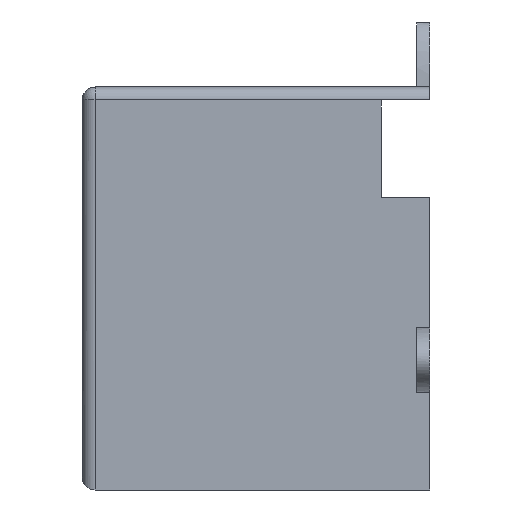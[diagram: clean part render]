
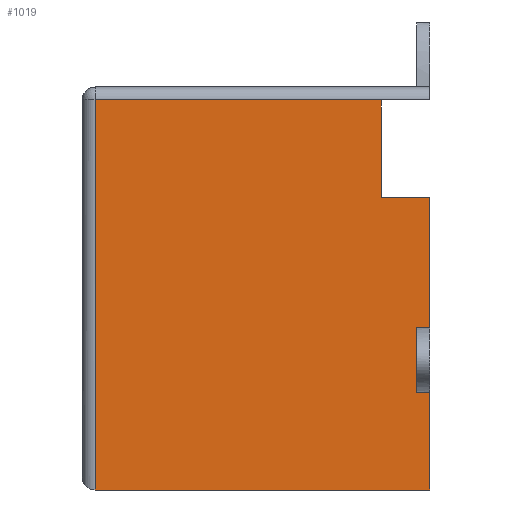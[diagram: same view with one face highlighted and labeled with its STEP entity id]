
A CAD part, left-side view. The second image highlights one B-rep face of the part: STEP entity #1019.
In plain terms, the highlighted planar face has unit normal (-1, 0, 0).
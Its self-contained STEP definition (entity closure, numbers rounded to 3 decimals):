
#47=PLANE('',#1119);
#87=LINE('',#1452,#199);
#90=LINE('',#1462,#202);
#111=LINE('',#1503,#223);
#125=LINE('',#1606,#237);
#126=LINE('',#1609,#238);
#127=LINE('',#1611,#239);
#135=LINE('',#1629,#247);
#136=LINE('',#1631,#248);
#137=LINE('',#1633,#249);
#138=LINE('',#1634,#250);
#199=VECTOR('',#1177,10.);
#202=VECTOR('',#1186,10.);
#223=VECTOR('',#1221,10.);
#237=VECTOR('',#1283,10.);
#238=VECTOR('',#1286,10.);
#239=VECTOR('',#1289,10.);
#247=VECTOR('',#1305,10.);
#248=VECTOR('',#1306,10.);
#249=VECTOR('',#1307,10.);
#250=VECTOR('',#1308,10.);
#347=FACE_OUTER_BOUND('',#413,.T.);
#413=EDGE_LOOP('',(#823,#824,#825,#826,#827,#828,#829,#830,#831,#832));
#478=VERTEX_POINT('',#1447);
#479=VERTEX_POINT('',#1451);
#483=VERTEX_POINT('',#1461);
#496=VERTEX_POINT('',#1501);
#519=VERTEX_POINT('',#1602);
#520=VERTEX_POINT('',#1603);
#521=VERTEX_POINT('',#1605);
#522=VERTEX_POINT('',#1607);
#529=VERTEX_POINT('',#1630);
#530=VERTEX_POINT('',#1632);
#574=EDGE_CURVE('',#479,#478,#87,.T.);
#579=EDGE_CURVE('',#478,#483,#90,.T.);
#601=EDGE_CURVE('',#496,#479,#111,.T.);
#630=EDGE_CURVE('',#521,#519,#125,.T.);
#632=EDGE_CURVE('',#520,#522,#126,.T.);
#633=EDGE_CURVE('',#522,#521,#127,.T.);
#643=EDGE_CURVE('',#496,#520,#135,.T.);
#644=EDGE_CURVE('',#519,#529,#136,.T.);
#645=EDGE_CURVE('',#529,#530,#137,.T.);
#646=EDGE_CURVE('',#530,#483,#138,.T.);
#823=ORIENTED_EDGE('',*,*,#574,.F.);
#824=ORIENTED_EDGE('',*,*,#601,.F.);
#825=ORIENTED_EDGE('',*,*,#643,.T.);
#826=ORIENTED_EDGE('',*,*,#632,.T.);
#827=ORIENTED_EDGE('',*,*,#633,.T.);
#828=ORIENTED_EDGE('',*,*,#630,.T.);
#829=ORIENTED_EDGE('',*,*,#644,.T.);
#830=ORIENTED_EDGE('',*,*,#645,.T.);
#831=ORIENTED_EDGE('',*,*,#646,.T.);
#832=ORIENTED_EDGE('',*,*,#579,.F.);
#1019=ADVANCED_FACE('',(#347),#47,.T.);
#1119=AXIS2_PLACEMENT_3D('',#1628,#1303,#1304);
#1177=DIRECTION('',(0.,0.,1.));
#1186=DIRECTION('',(0.,-1.,0.));
#1221=DIRECTION('',(0.,1.,0.));
#1283=DIRECTION('',(0.,-1.,0.));
#1286=DIRECTION('',(0.,1.,0.));
#1289=DIRECTION('',(0.,0.,1.));
#1303=DIRECTION('center_axis',(-1.,0.,0.));
#1304=DIRECTION('ref_axis',(0.,1.,0.));
#1305=DIRECTION('',(0.,0.,1.));
#1306=DIRECTION('',(0.,0.,1.));
#1307=DIRECTION('',(0.,1.,0.));
#1308=DIRECTION('',(0.,0.,1.));
#1447=CARTESIAN_POINT('',(0.,51.5,0.));
#1451=CARTESIAN_POINT('',(0.,51.5,-60.));
#1452=CARTESIAN_POINT('',(0.,51.5,0.));
#1461=CARTESIAN_POINT('',(0.,7.5,0.));
#1462=CARTESIAN_POINT('',(0.,13.375,0.));
#1501=CARTESIAN_POINT('',(0.,0.,-60.));
#1503=CARTESIAN_POINT('',(0.,0.,-60.));
#1602=CARTESIAN_POINT('',(0.,0.,-35.));
#1603=CARTESIAN_POINT('',(0.,0.,-45.));
#1605=CARTESIAN_POINT('',(0.,2.,-35.));
#1606=CARTESIAN_POINT('',(0.,0.,-35.));
#1607=CARTESIAN_POINT('',(0.,2.,-45.));
#1609=CARTESIAN_POINT('',(0.,0.,-45.));
#1611=CARTESIAN_POINT('',(0.,2.,-20.));
#1628=CARTESIAN_POINT('Origin',(0.,0.,0.));
#1629=CARTESIAN_POINT('',(0.,0.,0.));
#1630=CARTESIAN_POINT('',(0.,0.,-15.));
#1631=CARTESIAN_POINT('',(0.,0.,0.));
#1632=CARTESIAN_POINT('',(0.,7.5,-15.));
#1633=CARTESIAN_POINT('',(0.,0.,-15.));
#1634=CARTESIAN_POINT('',(0.,7.5,-7.5));
